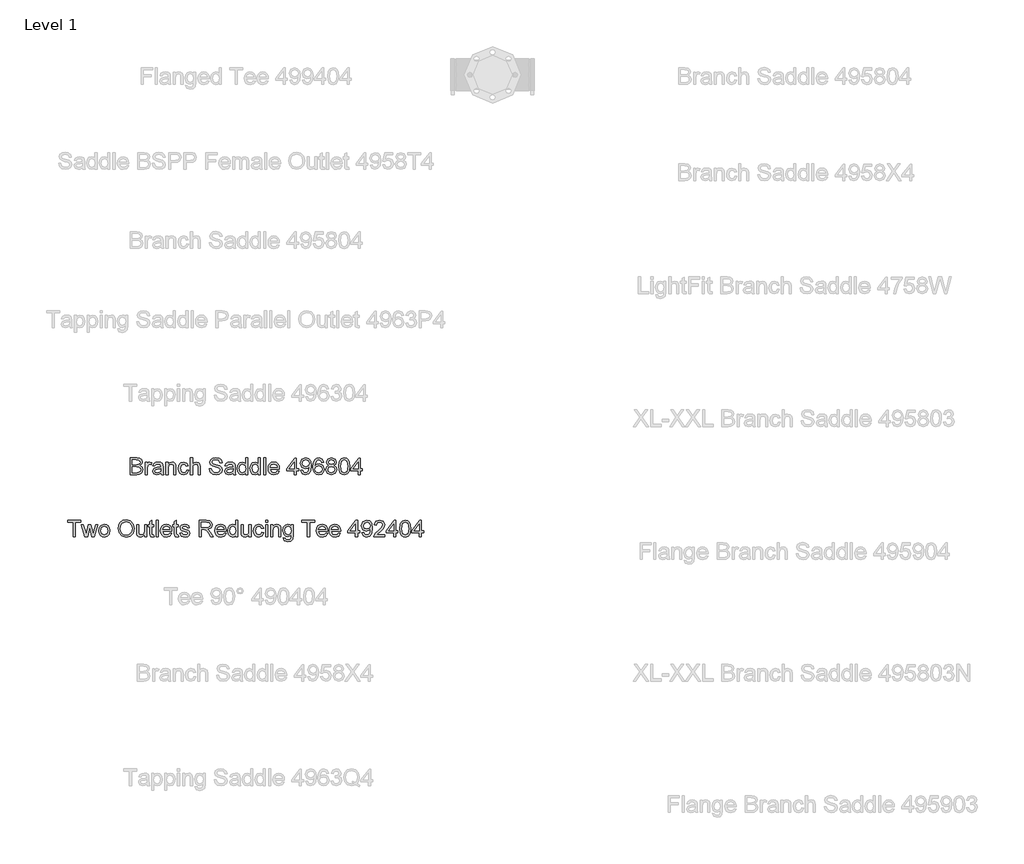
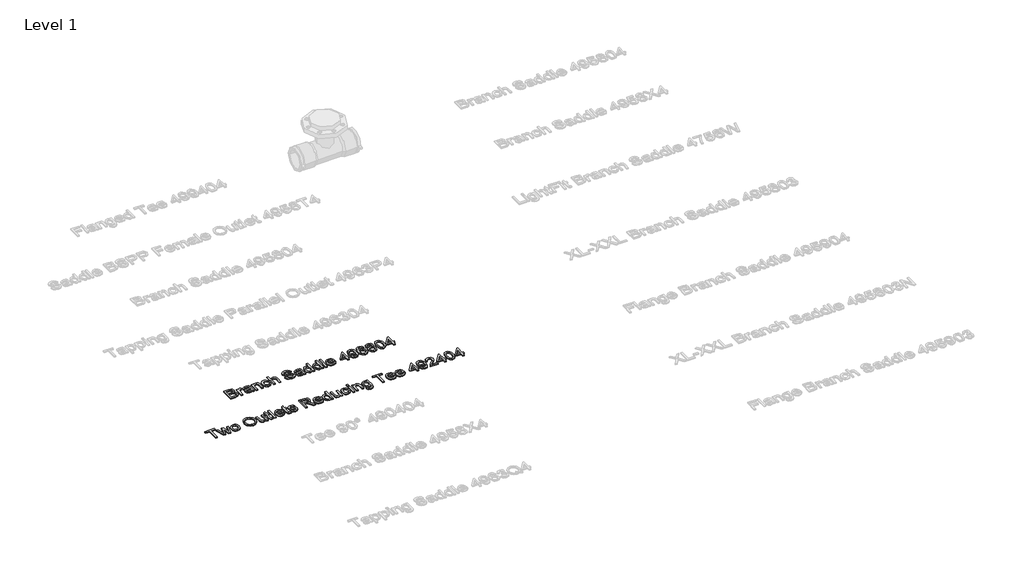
# One storey, part 5 of 38: 2 proxies.
"""IFC4 building model written with IfcOpenShell, lengths in millimetres."""

import ifcopenshell
import ifcopenshell.guid

model = None  # the IFC model being written
_history = None  # IfcOwnerHistory: only IFC2X3 demands one
_inside = {}  # id of a spatial element -> (the spatial element, [elements in it])
_under = {}  # id of a project, library or spatial element -> (it, [spatial elements below it])
_declared = {}  # id of a project -> (the project, [libraries it declares])
_typed = {}  # id of a type object -> (the type object, [elements of that type])
_made_of = {}  # id of a material, layer set ... -> (it, [elements and type objects made of it])


def new_model(schema):
    """Start an empty IFC model of exactly this schema.

    Asked for "IFC4X3", IfcOpenShell would pick the latest addendum, in which some entities
    have other attributes; the version numbers below select the first issue.
    IFC2X3 requires an IfcOwnerHistory on every rooted entity: one is made here for all.
    """
    global model, _history
    if schema == "IFC4X3":
        model = ifcopenshell.file(schema_version=(4, 3, 0, 0))
    else:
        model = ifcopenshell.file(schema=schema)
    _inside.clear()
    _under.clear()
    _declared.clear()
    _typed.clear()
    _made_of.clear()
    _history = None
    if model.schema == "IFC2X3":
        org = make("IfcOrganization", Name="unknown")
        user = make(
            "IfcPersonAndOrganization",
            ThePerson=make("IfcPerson", FamilyName="unknown"),
            TheOrganization=org,
        )
        app = make(
            "IfcApplication",
            ApplicationDeveloper=org,
            Version="unknown",
            ApplicationFullName="unknown",
            ApplicationIdentifier="unknown",
        )
        _history = make(
            "IfcOwnerHistory",
            OwningUser=user,
            OwningApplication=app,
            ChangeAction="ADDED",
            CreationDate=0,
        )
    return model


def make(cls, **values):
    """One entity of the class cls with the attributes given. An attribute that is None is left unset."""
    return model.create_entity(
        cls, **{name: value for name, value in values.items() if value is not None}
    )


def rooted(cls, **values):
    """An entity with a GlobalId (a new one), such as an element, a storey or a relation."""
    return make(cls, GlobalId=ifcopenshell.guid.new(), OwnerHistory=_history, **values)


def si_unit(unit_type, name, prefix=None):
    """IfcSIUnit, for example si_unit("LENGTHUNIT", "METRE", prefix="MILLI")."""
    return make("IfcSIUnit", UnitType=unit_type, Prefix=prefix, Name=name)


def assignment(units):
    """IfcUnitAssignment: the units of a project."""
    return None if units is None else make("IfcUnitAssignment", Units=units)


def point(xyz):
    """IfcCartesianPoint."""
    return None if xyz is None else make("IfcCartesianPoint", Coordinates=xyz)


def direction(xyz):
    """IfcDirection."""
    return None if xyz is None else make("IfcDirection", DirectionRatios=xyz)


def frame(location, z_axis=None, x_axis=None):
    """IfcAxis2Placement3D, a coordinate frame: its origin and axes. An axis left out is left unset."""
    return make(
        "IfcAxis2Placement3D",
        Location=point(location),
        Axis=direction(z_axis),
        RefDirection=direction(x_axis),
    )


def origin():
    """The frame at (0, 0, 0) with its axes left unset."""
    return frame((0.0, 0.0, 0.0))


def origin_with_axes():
    """The frame at (0, 0, 0) with the z axis (0, 0, 1) and the x axis (1, 0, 0) written out."""
    return frame((0.0, 0.0, 0.0), z_axis=(0.0, 0.0, 1.0), x_axis=(1.0, 0.0, 0.0))


def place(relative_to, where):
    """IfcLocalPlacement: puts the frame where relative to a parent placement (None: the world)."""
    return make(
        "IfcLocalPlacement", PlacementRelTo=relative_to, RelativePlacement=where
    )


def context(
    kind, dimensions, precision=None, world=None, true_north=None, identifier=None
):
    """IfcGeometricRepresentationContext, for example the 3D "Model" context."""
    return make(
        "IfcGeometricRepresentationContext",
        ContextIdentifier=identifier,
        ContextType=kind,
        CoordinateSpaceDimension=dimensions,
        Precision=precision,
        WorldCoordinateSystem=world,
        TrueNorth=true_north,
    )


def project(units=None, contexts=None):
    """IfcProject with its units and contexts."""
    return rooted(
        "IfcProject",
        Name="project",
        RepresentationContexts=contexts,
        UnitsInContext=assignment(units),
    )


def spatial(cls, under=None, at=None, **own):
    """A site, building, storey or space (cls), placed at a placement, below another one or the project."""
    s = rooted(cls, ObjectPlacement=at, **own)
    if under is not None:
        _under.setdefault(under.id(), (under, []))[1].append(s)
    return s


def polyline(points):
    """IfcPolyline through the points."""
    return make("IfcPolyline", Points=[point(p) for p in points])


def outline(outer, holes=None, kind="AREA"):
    """IfcArbitraryClosedProfileDef: a profile drawn as a closed curve; with holes, ...WithVoids."""
    if holes is None:
        return make("IfcArbitraryClosedProfileDef", ProfileType=kind, OuterCurve=outer)
    return make(
        "IfcArbitraryProfileDefWithVoids",
        ProfileType=kind,
        OuterCurve=outer,
        InnerCurves=holes,
    )


def extrude(swept, where, along, depth):
    """IfcExtrudedAreaSolid: the profile swept, set in the frame where, extruded along a direction by depth."""
    return make(
        "IfcExtrudedAreaSolid",
        SweptArea=swept,
        Position=where,
        ExtrudedDirection=direction(along),
        Depth=depth,
    )


def shape(context_of_items, identifier, shape_type, items):
    """IfcShapeRepresentation: the items that make up one representation, for example the "Body"."""
    return make(
        "IfcShapeRepresentation",
        ContextOfItems=context_of_items,
        RepresentationIdentifier=identifier,
        RepresentationType=shape_type,
        Items=items,
    )


def made_of(thing, what):
    """Note that an element or type object is made of a material, layer set ...; save() writes the relation."""
    if what is not None:
        _made_of.setdefault(what.id(), (what, []))[1].append(thing)
    return thing


def element(
    cls,
    number,
    at=None,
    inside=None,
    cuts=None,
    type_object=None,
    material=None,
    context=None,
    identifier="Body",
    shape_type=None,
    held_by="IfcProductDefinitionShape",
    body=None,
    shapes=None,
    **own,
):
    """One element of the class cls, such as IfcWall. Its Tag is "e" and its number.

    at: its placement. inside: the storey or other place that contains it. cuts: it is an
    opening in that element (IfcRelVoidsElement). A single representation is given by context,
    identifier, shape_type and body (its items); several are given by shapes. held_by: the class
    of the entity that holds the representations. save() writes the other relations.
    """
    e = rooted(cls, Tag="e%d" % number, ObjectPlacement=at, **own)
    if body is not None:
        shapes = [shape(context, identifier, shape_type, body)]
    if shapes is not None:
        e.Representation = make(held_by, Representations=shapes)
    if inside is not None:
        _inside.setdefault(inside.id(), (inside, []))[1].append(e)
    if cuts is not None:
        rooted(
            "IfcRelVoidsElement", RelatingBuildingElement=cuts, RelatedOpeningElement=e
        )
    if type_object is not None:
        _typed.setdefault(type_object.id(), (type_object, []))[1].append(e)
    return made_of(e, material)


def aggregate(whole, parts):
    """IfcRelAggregates: a whole, such as a stair, and the parts it consists of."""
    return rooted("IfcRelAggregates", RelatingObject=whole, RelatedObjects=parts)


def save(model, path):
    """Write the relations noted so far, then the file.

    IfcRelAggregates (storeys below a building ...), IfcRelContainedInSpatialStructure (elements
    in a storey), IfcRelDefinesByType, IfcRelAssociatesMaterial and IfcRelDeclares: one each for
    every whole, place, type object, material and project.
    """
    for whole, parts in _under.values():
        aggregate(whole, parts)
    for where, things in _inside.values():
        rooted(
            "IfcRelContainedInSpatialStructure",
            RelatedElements=things,
            RelatingStructure=where,
        )
    for kind, things in _typed.values():
        rooted("IfcRelDefinesByType", RelatedObjects=things, RelatingType=kind)
    for what, things in _made_of.values():
        rooted("IfcRelAssociatesMaterial", RelatedObjects=things, RelatingMaterial=what)
    for by, libraries in _declared.values():
        rooted("IfcRelDeclares", RelatingContext=by, RelatedDefinitions=libraries)
    model.write(path)


model = new_model("IFC4")

# Units and contexts
model_context = context("Model", 3, world=origin())
ifc_project = project(units=[si_unit("LENGTHUNIT", "METRE", prefix="MILLI")], contexts=[model_context])

# Site, building, storey
site = spatial("IfcSite", under=ifc_project)
building = spatial("IfcBuilding", under=site)
storey = spatial("IfcBuildingStorey", under=building, Name="Level 1", Elevation=0.0)

# Proxies
placement = place(None, origin())
element("IfcBuildingElementProxy", 1, Name="100 mm Arial", ObjectType="100 mm Arial", at=placement, inside=storey, context=model_context, shape_type="SweptSolid", body=[
    extrude(outline(polyline([(6650.4423841, 3557.5779735), (6650.4423841, 3616.6548966), (6672.9856533, 3616.6548966), (6684.0265187, 3614.9169158), (6690.5457495, 3609.5731658), (6692.9039226, 3602.0154735), (6690.9207495, 3595.1140312), (6684.927961, 3589.8856658), (6692.2044033, 3584.3760505), (6694.7500764, 3575.1885505), (6693.0120956, 3567.2486466), (6688.7068072, 3561.5948005), (6682.2813264, 3558.5948005), (6672.8125764, 3557.5779735), (6650.4423841, 3557.5779735)]), holes=[polyline([(6657.8269995, 3564.9625889), (6672.9712303, 3564.9625889), (6678.4519995, 3565.2510505), (6683.0890187, 3566.8592235), (6686.1611341, 3570.1404735), (6687.365461, 3575.1164351), (6685.9519995, 3580.8568197), (6681.3726726, 3584.2823005), (6672.2500764, 3585.2702812), (6657.8269995, 3585.2702812), (6657.8269995, 3564.9625889)]), polyline([(6657.8269995, 3592.6548966), (6671.3125764, 3592.6548966), (6679.1875764, 3593.289512), (6683.9255572, 3596.0226851), (6685.5193072, 3600.8327812), (6684.0337303, 3605.6500889), (6679.7789226, 3608.4986466), (6670.288538, 3609.2702812), (6657.8269995, 3609.2702812), (6657.8269995, 3592.6548966)])]), origin_with_axes(), (0.0, 0.0, 1.0), 5.0),
    extrude(outline(polyline([(6703.9808456, 3557.5779735), (6703.9808456, 3600.9625889), (6710.4423841, 3600.9625889), (6710.4423841, 3594.5443197), (6715.0289226, 3600.4577812), (6719.6443072, 3601.8856658), (6727.0577687, 3599.6068197), (6724.5914226, 3592.9866274), (6719.3991149, 3594.5010505), (6715.2236341, 3593.0443197), (6712.5625764, 3589.0058582), (6711.365461, 3580.3808582), (6711.365461, 3557.5779735), (6703.9808456, 3557.5779735)])), origin_with_axes(), (0.0, 0.0, 1.0), 5.0),
    extrude(outline(polyline([(6759.365461, 3563.1164351), (6752.2044033, 3558.1116274), (6744.2933456, 3556.6548966), (6733.569788, 3560.1597043), (6729.8269995, 3569.1164351), (6731.240461, 3574.9577812), (6734.9544033, 3579.1981658), (6740.1250764, 3581.6212428), (6746.5144995, 3582.7318197), (6759.3221918, 3585.2702812), (6759.365461, 3586.914512), (6757.3318072, 3592.3664351), (6749.1683456, 3594.5010505), (6741.6971918, 3593.0803774), (6738.1346918, 3588.039512), (6730.7500764, 3588.9625889), (6733.944788, 3596.1741274), (6740.3774803, 3600.4000889), (6750.1202687, 3601.8856658), (6759.069788, 3600.5731658), (6764.1250764, 3597.2774928), (6766.3894995, 3592.2654735), (6766.7500764, 3585.8039351), (6766.7500764, 3576.6164351), (6767.1250764, 3563.7871082), (6768.5962303, 3557.5779735), (6761.2116149, 3557.5779735), (6759.365461, 3563.1164351)]), holes=[polyline([(6759.365461, 3577.8856658), (6747.4519995, 3575.6212428), (6741.0986341, 3574.4241274), (6738.2212303, 3572.477012), (6737.2116149, 3569.6356658), (6739.4111341, 3565.6404735), (6745.865461, 3564.039512), (6753.3366149, 3565.8063389), (6758.1539226, 3570.0827812), (6759.3221918, 3575.7943197), (6759.365461, 3577.8856658)])]), origin_with_axes(), (0.0, 0.0, 1.0), 5.0),
    extrude(outline(polyline([(6776.9039226, 3557.5779735), (6776.9039226, 3600.9625889), (6784.288538, 3600.9625889), (6784.288538, 3594.9048966), (6789.9351726, 3600.1404735), (6797.6443072, 3601.8856658), (6804.6178649, 3600.4794158), (6809.3774803, 3596.7871082), (6811.5914226, 3591.3568197), (6811.9808456, 3584.2173966), (6811.9808456, 3557.5779735), (6804.5962303, 3557.5779735), (6804.5962303, 3583.2222043), (6803.7452687, 3589.7558582), (6800.7380572, 3593.2101851), (6795.6683456, 3594.5010505), (6787.6563264, 3591.602012), (6784.288538, 3580.5972043), (6784.288538, 3557.5779735), (6776.9039226, 3557.5779735)])), origin_with_axes(), (0.0, 0.0, 1.0), 5.0),
    extrude(outline(polyline([(6849.8269995, 3573.2702812), (6857.2116149, 3572.3472043), (6851.2837303, 3560.8159543), (6839.5721918, 3556.6548966), (6831.7170235, 3558.1062187), (6825.5745956, 3562.4601851), (6821.6100524, 3569.5256899), (6820.288538, 3579.1116274), (6822.5457495, 3591.3784543), (6829.4255572, 3599.2606658), (6839.4712303, 3601.8856658), (6850.6995956, 3598.2798966), (6856.288538, 3588.039512), (6848.9039226, 3587.1164351), (6845.4784418, 3592.6476851), (6839.5289226, 3594.5010505), (6830.9688264, 3590.852012), (6827.6731533, 3579.3135505), (6830.896711, 3567.6669158), (6839.3269995, 3564.039512), (6846.2861341, 3566.3039351), (6849.8269995, 3573.2702812)])), origin_with_axes(), (0.0, 0.0, 1.0), 5.0),
    extrude(outline(polyline([(6863.6731533, 3557.5779735), (6863.6731533, 3616.6548966), (6871.0577687, 3616.6548966), (6871.0577687, 3594.9337428), (6876.8161822, 3600.1476851), (6883.9087303, 3601.8856658), (6892.2019995, 3599.9890312), (6897.2356533, 3594.7462428), (6898.7500764, 3585.039512), (6898.7500764, 3557.5779735), (6891.365461, 3557.5779735), (6891.365461, 3584.2750889), (6889.0144995, 3592.0635505), (6882.351038, 3594.5010505), (6876.3005572, 3592.8568197), (6872.2620956, 3588.4000889), (6871.0577687, 3580.6260505), (6871.0577687, 3557.5779735), (6863.6731533, 3557.5779735)])), origin_with_axes(), (0.0, 0.0, 1.0), 5.0),
    extrude(outline(polyline([(6930.1346918, 3577.8856658), (6937.5193072, 3577.8856658), (6939.8991149, 3570.4938389), (6945.7116149, 3565.820762), (6954.5673841, 3564.039512), (6962.2837303, 3565.3880697), (6967.2669033, 3569.0948005), (6968.9039226, 3574.0491274), (6967.677961, 3578.6573005), (6962.6587303, 3582.0106658), (6951.9063264, 3584.8303774), (6940.3318072, 3588.4722043), (6934.0505572, 3593.9673966), (6931.9808456, 3601.3087428), (6934.5409418, 3609.6669158), (6942.0193072, 3615.5659543), (6952.9664226, 3617.5779735), (6964.6491149, 3615.4722043), (6972.4375764, 3609.2847043), (6975.365461, 3600.039512), (6967.9808456, 3600.039512), (6963.7981533, 3607.6260505), (6953.2548841, 3610.1933582), (6942.6827687, 3607.6548966), (6939.365461, 3601.5250889), (6941.7164226, 3596.4048966), (6953.7741149, 3592.2798966), (6966.8414226, 3588.5731658), (6973.9880572, 3582.5875889), (6976.288538, 3574.2366274), (6973.6419033, 3565.4024928), (6966.0265187, 3558.9553774), (6954.8558456, 3556.6548966), (6941.6659418, 3559.1356658), (6933.3221918, 3566.6068197), (6930.1346918, 3577.8856658)])), origin_with_axes(), (0.0, 0.0, 1.0), 5.0),
    extrude(outline(polyline([(7014.1346918, 3563.1164351), (7006.9736341, 3558.1116274), (6999.0625764, 3556.6548966), (6988.3390187, 3560.1597043), (6984.5962303, 3569.1164351), (6986.0096918, 3574.9577812), (6989.7236341, 3579.1981658), (6994.8943072, 3581.6212428), (7001.2837303, 3582.7318197), (7014.0914226, 3585.2702812), (7014.1346918, 3586.914512), (7012.101038, 3592.3664351), (7003.9375764, 3594.5010505), (6996.4664226, 3593.0803774), (6992.9039226, 3588.039512), (6985.5193072, 3588.9625889), (6988.7140187, 3596.1741274), (6995.146711, 3600.4000889), (7004.8894995, 3601.8856658), (7013.8390187, 3600.5731658), (7018.8943072, 3597.2774928), (7021.1587303, 3592.2654735), (7021.5193072, 3585.8039351), (7021.5193072, 3576.6164351), (7021.8943072, 3563.7871082), (7023.365461, 3557.5779735), (7015.9808456, 3557.5779735), (7014.1346918, 3563.1164351)]), holes=[polyline([(7014.1346918, 3577.8856658), (7002.2212303, 3575.6212428), (6995.8678649, 3574.4241274), (6992.990461, 3572.477012), (6991.9808456, 3569.6356658), (6994.1803649, 3565.6404735), (7000.6346918, 3564.039512), (7008.1058456, 3565.8063389), (7012.9231533, 3570.0827812), (7014.0914226, 3575.7943197), (7014.1346918, 3577.8856658)])]), origin_with_axes(), (0.0, 0.0, 1.0), 5.0),
    extrude(outline(polyline([(7058.4423841, 3557.5779735), (7058.4423841, 3564.5443197), (7053.5565668, 3558.6272524), (7046.802961, 3556.6548966), (7037.6587303, 3559.5106658), (7031.1971918, 3567.4794158), (7028.9039226, 3579.227012), (7031.0169033, 3590.9818197), (7037.3486341, 3599.0731658), (7046.7741149, 3601.8856658), (7053.5818072, 3599.8736466), (7058.4423841, 3594.6452812), (7058.4423841, 3616.6548966), (7065.8269995, 3616.6548966), (7065.8269995, 3557.5779735), (7058.4423841, 3557.5779735)]), holes=[polyline([(7036.288538, 3579.2558582), (7039.6202687, 3567.8255697), (7047.4808456, 3564.039512), (7055.2476726, 3567.6524928), (7058.4423841, 3578.6933582), (7055.1899803, 3590.6789351), (7047.177961, 3594.5010505), (7039.4039226, 3590.8303774), (7036.288538, 3579.2558582)])]), origin_with_axes(), (0.0, 0.0, 1.0), 5.0),
    extrude(outline(polyline([(7103.6731533, 3557.5779735), (7103.6731533, 3564.5443197), (7098.787336, 3558.6272524), (7092.0337303, 3556.6548966), (7082.8894995, 3559.5106658), (7076.427961, 3567.4794158), (7074.1346918, 3579.227012), (7076.2476726, 3590.9818197), (7082.5794033, 3599.0731658), (7092.0048841, 3601.8856658), (7098.8125764, 3599.8736466), (7103.6731533, 3594.6452812), (7103.6731533, 3616.6548966), (7111.0577687, 3616.6548966), (7111.0577687, 3557.5779735), (7103.6731533, 3557.5779735)]), holes=[polyline([(7081.5193072, 3579.2558582), (7084.851038, 3567.8255697), (7092.7116149, 3564.039512), (7100.4784418, 3567.6524928), (7103.6731533, 3578.6933582), (7100.4207495, 3590.6789351), (7092.4087303, 3594.5010505), (7084.6346918, 3590.8303774), (7081.5193072, 3579.2558582)])]), origin_with_axes(), (0.0, 0.0, 1.0), 5.0),
    extrude(outline(polyline([(7122.1346918, 3557.5779735), (7122.1346918, 3616.6548966), (7129.5193072, 3616.6548966), (7129.5193072, 3557.5779735), (7122.1346918, 3557.5779735)])), origin_with_axes(), (0.0, 0.0, 1.0), 5.0),
    extrude(outline(polyline([(7170.9712303, 3570.5010505), (7178.2116149, 3569.5779735), (7171.4399803, 3560.0443197), (7158.8269995, 3556.6548966), (7150.162336, 3558.117036), (7143.4952687, 3562.5034543), (7139.2440668, 3569.5292957), (7137.8269995, 3578.9097043), (7139.2584899, 3588.6056178), (7143.552961, 3595.8568197), (7150.1298841, 3600.3784543), (7158.4087303, 3601.8856658), (7166.4297639, 3600.3820601), (7172.8390187, 3595.8712428), (7177.0415428, 3588.6344639), (7178.4423841, 3578.9529735), (7178.3991149, 3576.9625889), (7145.2116149, 3576.9625889), (7149.459211, 3567.3712428), (7158.9712303, 3564.039512), (7166.2116149, 3565.5827812), (7170.9712303, 3570.5010505)]), holes=[polyline([(7145.2116149, 3584.3472043), (7171.0577687, 3584.3472043), (7168.101038, 3591.039512), (7158.3798841, 3594.5010505), (7149.2861341, 3591.7390312), (7145.2116149, 3584.3472043)])]), origin_with_axes(), (0.0, 0.0, 1.0), 5.0),
    extrude(outline(polyline([(7231.0577687, 3557.5779735), (7231.0577687, 3571.4241274), (7204.288538, 3571.4241274), (7204.288538, 3578.8087428), (7232.9039226, 3615.7318197), (7238.4423841, 3615.7318197), (7238.4423841, 3578.8087428), (7245.8269995, 3578.8087428), (7245.8269995, 3571.4241274), (7238.4423841, 3571.4241274), (7238.4423841, 3557.5779735), (7231.0577687, 3557.5779735)]), holes=[polyline([(7231.0577687, 3578.8087428), (7231.0577687, 3601.6260505), (7213.3750764, 3578.8087428), (7231.0577687, 3578.8087428)])]), origin_with_axes(), (0.0, 0.0, 1.0), 5.0),
    extrude(outline(polyline([(7253.2116149, 3572.3472043), (7260.5962303, 3573.2702812), (7263.913538, 3566.2246082), (7270.2019995, 3564.039512), (7276.1803649, 3565.445762), (7280.2332495, 3569.2029735), (7282.6491149, 3575.6212428), (7283.7164226, 3584.1885505), (7277.7669033, 3580.0347043), (7269.6683456, 3577.8856658), (7257.3294033, 3583.1356658), (7252.288538, 3596.9673966), (7257.5745956, 3611.2462428), (7270.8221918, 3616.6548966), (7281.3438264, 3613.5683582), (7288.584211, 3604.7702812), (7291.0577687, 3588.2414351), (7288.5914226, 3570.3063389), (7281.257288, 3560.1452812), (7269.8558456, 3556.6548966), (7258.5048841, 3560.7726851), (7253.2116149, 3572.3472043)]), holes=[polyline([(7283.6731533, 3597.1404735), (7280.4856533, 3605.9962428), (7272.0193072, 3609.2702812), (7263.1346918, 3605.7438389), (7259.6731533, 3596.6068197), (7262.9471918, 3588.4217235), (7271.8173841, 3585.2702812), (7280.334211, 3588.4217235), (7283.6731533, 3597.1404735)])]), origin_with_axes(), (0.0, 0.0, 1.0), 5.0),
    extrude(outline(polyline([(7335.365461, 3600.9625889), (7327.9808456, 3600.039512), (7325.1827687, 3606.1981658), (7317.7837303, 3609.2702812), (7311.1202687, 3607.4818197), (7306.0794033, 3600.7678774), (7303.9808456, 3587.6068197), (7310.4928649, 3593.4986466), (7318.5625764, 3595.4241274), (7331.1106533, 3590.1597043), (7336.288538, 3576.5587428), (7333.851038, 3566.3688389), (7327.1443072, 3559.1573005), (7317.4664226, 3556.6548966), (7309.0884178, 3558.3135505), (7302.4159418, 3563.289512), (7298.0511581, 3572.0731658), (7296.5962303, 3585.1548966), (7298.2116149, 3599.8628293), (7303.0577687, 3609.9193197), (7309.6743553, 3614.9710024), (7318.2452687, 3616.6548966), (7329.913538, 3612.4866274), (7335.365461, 3600.9625889)]), holes=[polyline([(7303.9808456, 3576.6741274), (7305.6899803, 3570.2774928), (7310.2332495, 3565.633262), (7316.8894995, 3564.039512), (7325.5938264, 3567.3423966), (7328.9039226, 3576.3135505), (7325.6370956, 3584.9024928), (7316.5866149, 3588.039512), (7307.6515187, 3584.9024928), (7303.9808456, 3576.6741274)])]), origin_with_axes(), (0.0, 0.0, 1.0), 5.0),
    extrude(outline(polyline([(7353.5096918, 3590.1164351), (7346.7813264, 3594.7029735), (7344.5962303, 3601.8423966), (7349.3558456, 3612.3856658), (7362.0337303, 3616.6548966), (7374.8269995, 3612.2847043), (7379.6731533, 3601.6404735), (7377.5169033, 3594.6813389), (7370.976038, 3590.1164351), (7378.8294033, 3584.3255697), (7381.5193072, 3574.7702812), (7376.1827687, 3561.8760505), (7362.1346918, 3556.6548966), (7348.0866149, 3561.8976851), (7342.7500764, 3574.9722043), (7345.5481533, 3584.7510505), (7353.5096918, 3590.1164351)]), holes=[polyline([(7351.9808456, 3601.6260505), (7354.5986341, 3595.8279735), (7362.2212303, 3593.5779735), (7369.6923841, 3595.8135505), (7372.288538, 3601.2943197), (7369.6058456, 3606.9698005), (7362.1346918, 3609.2702812), (7354.6419033, 3607.0202812), (7351.9808456, 3601.6260505)]), polyline([(7350.1346918, 3575.2318197), (7351.3678649, 3569.6717235), (7355.7308456, 3565.5106658), (7362.1923841, 3564.039512), (7370.990461, 3567.133262), (7374.1346918, 3575.0010505), (7370.8894995, 3583.0202812), (7361.9471918, 3586.1933582), (7353.257288, 3583.0635505), (7350.1346918, 3575.2318197)])]), origin_with_axes(), (0.0, 0.0, 1.0), 5.0),
    extrude(outline(polyline([(7387.9808456, 3586.6404735), (7390.1515187, 3603.6380697), (7396.5986341, 3613.4385505), (7407.365461, 3616.6548966), (7415.990461, 3614.7510505), (7421.9471918, 3609.2630697), (7425.4087303, 3600.5226851), (7426.7500764, 3586.6404735), (7424.601038, 3569.7149928), (7418.1755572, 3559.8928774), (7407.365461, 3556.6548966), (7399.6923841, 3558.0611466), (7393.865461, 3562.2798966), (7389.4519995, 3572.2714832), (7387.9808456, 3586.6404735)]), holes=[polyline([(7395.365461, 3586.6548966), (7398.8269995, 3568.3159543), (7407.365461, 3564.039512), (7415.9039226, 3568.3303774), (7419.365461, 3586.6548966), (7416.0193072, 3604.7847043), (7407.2789226, 3609.2702812), (7398.9423841, 3605.3183582), (7395.365461, 3586.6548966)])]), origin_with_axes(), (0.0, 0.0, 1.0), 5.0),
    extrude(outline(polyline([(7457.2116149, 3557.5779735), (7457.2116149, 3571.4241274), (7430.4423841, 3571.4241274), (7430.4423841, 3578.8087428), (7459.0577687, 3615.7318197), (7464.5962303, 3615.7318197), (7464.5962303, 3578.8087428), (7471.9808456, 3578.8087428), (7471.9808456, 3571.4241274), (7464.5962303, 3571.4241274), (7464.5962303, 3557.5779735), (7457.2116149, 3557.5779735)]), holes=[polyline([(7457.2116149, 3578.8087428), (7457.2116149, 3601.6260505), (7439.5289226, 3578.8087428), (7457.2116149, 3578.8087428)])]), origin_with_axes(), (0.0, 0.0, 1.0), 5.0),
])
element("IfcBuildingElementProxy", 2, Name="100 mm Arial", ObjectType="100 mm Arial", at=placement, inside=storey, context=model_context, shape_type="SweptSolid", body=[
    extrude(outline(polyline([(6449.2116149, 3337.5779735), (6449.2116149, 3389.2702812), (6429.8269995, 3389.2702812), (6429.8269995, 3396.6548966), (6475.9808456, 3396.6548966), (6475.9808456, 3389.2702812), (6456.5962303, 3389.2702812), (6456.5962303, 3337.5779735), (6449.2116149, 3337.5779735)])), origin_with_axes(), (0.0, 0.0, 1.0), 5.0),
    extrude(outline(polyline([(6490.5625764, 3337.5779735), (6477.365461, 3380.9625889), (6485.038538, 3380.9625889), (6492.5241149, 3355.6500889), (6494.7596918, 3346.6068197), (6496.5914226, 3355.3183582), (6502.5481533, 3380.9625889), (6511.3462303, 3380.9625889), (6517.2741149, 3355.3904735), (6518.9039226, 3347.5010505), (6521.240461, 3355.8231658), (6528.740461, 3380.9625889), (6536.4423841, 3380.9625889), (6523.1443072, 3337.5779735), (6514.2164226, 3337.5779735), (6508.5481533, 3363.0202812), (6506.9039226, 3370.9529735), (6499.5914226, 3337.5779735), (6490.5625764, 3337.5779735)])), origin_with_axes(), (0.0, 0.0, 1.0), 5.0),
    extrude(outline(polyline([(6539.6731533, 3359.2702812), (6541.2705091, 3369.7306178), (6546.0625764, 3377.0827812), (6559.0721918, 3381.8856658), (6566.8300043, 3380.4235264), (6573.0265187, 3376.0371082), (6577.0884178, 3369.0725649), (6578.4423841, 3359.8760505), (6576.0481533, 3346.7366274), (6569.0745956, 3339.3015312), (6559.0721918, 3336.6548966), (6551.2206293, 3338.1116274), (6545.0313264, 3342.4818197), (6541.0126966, 3349.5923966), (6539.6731533, 3359.2702812)]), holes=[polyline([(6547.0577687, 3359.2847043), (6550.476038, 3347.8399928), (6559.0721918, 3344.039512), (6567.6394995, 3347.8616274), (6571.0577687, 3359.5154735), (6567.6178649, 3370.7005697), (6559.0721918, 3374.5010505), (6550.476038, 3370.7149928), (6547.0577687, 3359.2847043)])]), origin_with_axes(), (0.0, 0.0, 1.0), 5.0),
    extrude(outline(polyline([(6607.9808456, 3366.3375889), (6609.9495956, 3379.4012908), (6615.8558456, 3389.2847043), (6624.8738745, 3395.5046562), (6636.177961, 3397.5779735), (6650.8750764, 3393.6837428), (6660.8558456, 3382.8231658), (6664.288538, 3367.0154735), (6660.6755572, 3350.9914351), (6650.4351726, 3340.289512), (6636.1346918, 3336.6548966), (6621.2789226, 3340.6717235), (6611.3558456, 3351.633262), (6607.9808456, 3366.3375889)]), holes=[polyline([(6615.365461, 3366.2654735), (6616.8420235, 3357.023887), (6621.271711, 3349.9818197), (6627.9297639, 3345.5250889), (6636.0914226, 3344.039512), (6644.3720716, 3345.539512), (6651.0409418, 3350.039512), (6655.4381774, 3357.2979255), (6656.9039226, 3367.0731658), (6654.3943072, 3379.2606658), (6647.0601726, 3387.3303774), (6636.2212303, 3390.1933582), (6621.5241149, 3384.6765312), (6616.9051245, 3377.3153533), (6615.365461, 3366.2654735)])]), origin_with_axes(), (0.0, 0.0, 1.0), 5.0),
    extrude(outline(polyline([(6701.2116149, 3337.5779735), (6701.2116149, 3345.0347043), (6695.427961, 3338.7498485), (6687.8846918, 3336.6548966), (6680.9399803, 3338.1260505), (6676.1515187, 3341.8183582), (6673.9519995, 3347.2558582), (6673.5193072, 3354.1212428), (6673.5193072, 3380.9625889), (6680.9039226, 3380.9625889), (6680.9039226, 3357.5972043), (6681.351038, 3350.0683582), (6684.271711, 3345.6476851), (6689.7741149, 3344.039512), (6695.9399803, 3345.6837428), (6700.0144995, 3350.1621082), (6701.2116149, 3358.3904735), (6701.2116149, 3380.9625889), (6708.5962303, 3380.9625889), (6708.5962303, 3337.5779735), (6701.2116149, 3337.5779735)])), origin_with_axes(), (0.0, 0.0, 1.0), 5.0),
    extrude(outline(polyline([(6734.4423841, 3343.7366274), (6735.365461, 3337.3616274), (6729.8414226, 3336.6548966), (6723.6539226, 3337.8808582), (6720.5673841, 3341.0972043), (6719.6731533, 3349.477012), (6719.6731533, 3373.5779735), (6714.1346918, 3373.5779735), (6714.1346918, 3380.9625889), (6719.6731533, 3380.9625889), (6719.6731533, 3391.5058582), (6727.0577687, 3395.8472043), (6727.0577687, 3380.9625889), (6734.4423841, 3380.9625889), (6734.4423841, 3373.5779735), (6727.0577687, 3373.5779735), (6727.0577687, 3349.6933582), (6727.4471918, 3345.8856658), (6728.709211, 3344.5371082), (6731.226038, 3344.039512), (6734.4423841, 3343.7366274)])), origin_with_axes(), (0.0, 0.0, 1.0), 5.0),
    extrude(outline(polyline([(6741.8269995, 3337.5779735), (6741.8269995, 3396.6548966), (6749.2116149, 3396.6548966), (6749.2116149, 3337.5779735), (6741.8269995, 3337.5779735)])), origin_with_axes(), (0.0, 0.0, 1.0), 5.0),
    extrude(outline(polyline([(6790.663538, 3350.5010505), (6797.9039226, 3349.5779735), (6791.132288, 3340.0443197), (6778.5193072, 3336.6548966), (6769.8546437, 3338.117036), (6763.1875764, 3342.5034543), (6758.9363745, 3349.5292957), (6757.5193072, 3358.9097043), (6758.9507976, 3368.6056178), (6763.2452687, 3375.8568197), (6769.8221918, 3380.3784543), (6778.101038, 3381.8856658), (6786.1220716, 3380.3820601), (6792.5313264, 3375.8712428), (6796.7338505, 3368.6344639), (6798.1346918, 3358.9529735), (6798.0914226, 3356.9625889), (6764.9039226, 3356.9625889), (6769.1515187, 3347.3712428), (6778.663538, 3344.039512), (6785.9039226, 3345.5827812), (6790.663538, 3350.5010505)]), holes=[polyline([(6764.9039226, 3364.3472043), (6790.7500764, 3364.3472043), (6787.7933456, 3371.039512), (6778.0721918, 3374.5010505), (6768.9784418, 3371.7390312), (6764.9039226, 3364.3472043)])]), origin_with_axes(), (0.0, 0.0, 1.0), 5.0),
    extrude(outline(polyline([(6821.2116149, 3343.7366274), (6822.1346918, 3337.3616274), (6816.6106533, 3336.6548966), (6810.4231533, 3337.8808582), (6807.3366149, 3341.0972043), (6806.4423841, 3349.477012), (6806.4423841, 3373.5779735), (6800.9039226, 3373.5779735), (6800.9039226, 3380.9625889), (6806.4423841, 3380.9625889), (6806.4423841, 3391.5058582), (6813.8269995, 3395.8472043), (6813.8269995, 3380.9625889), (6821.2116149, 3380.9625889), (6821.2116149, 3373.5779735), (6813.8269995, 3373.5779735), (6813.8269995, 3349.6933582), (6814.2164226, 3345.8856658), (6815.4784418, 3344.5371082), (6817.9952687, 3344.039512), (6821.2116149, 3343.7366274)])), origin_with_axes(), (0.0, 0.0, 1.0), 5.0),
    extrude(outline(polyline([(6825.8269995, 3350.5010505), (6833.2116149, 3351.4241274), (6836.6298841, 3345.9433582), (6844.4616149, 3344.039512), (6851.990461, 3345.7847043), (6854.4423841, 3349.8808582), (6851.976038, 3353.1981658), (6844.3750764, 3355.3039351), (6833.2548841, 3358.9169158), (6828.4015187, 3363.1356658), (6826.7500764, 3369.0923966), (6828.0769995, 3374.5948005), (6831.6971918, 3378.7991274), (6836.3919033, 3380.9842235), (6842.7452687, 3381.8856658), (6851.7308456, 3380.4361466), (6857.4423841, 3376.5130697), (6859.9808456, 3369.8856658), (6852.5962303, 3368.9625889), (6849.819788, 3373.0371082), (6843.3221918, 3374.5010505), (6836.2548841, 3373.102012), (6834.1346918, 3369.8423966), (6835.0144995, 3367.6933582), (6837.7693072, 3366.0635505), (6844.1298841, 3364.4914351), (6854.9688264, 3361.0154735), (6860.0024803, 3357.0779735), (6861.8269995, 3350.6597043), (6859.6851726, 3343.5923966), (6853.5048841, 3338.4649928), (6844.3606533, 3336.6548966), (6831.4808456, 3340.1452812), (6825.8269995, 3350.5010505)])), origin_with_axes(), (0.0, 0.0, 1.0), 5.0),
    extrude(outline(polyline([(6894.1346918, 3337.5779735), (6894.1346918, 3396.6548966), (6919.5914226, 3396.6548966), (6931.4111341, 3395.0611466), (6937.8726726, 3389.4217235), (6940.288538, 3380.4866274), (6936.2861341, 3369.8423966), (6923.9183456, 3364.3472043), (6928.115461, 3361.1885505), (6934.101038, 3353.5875889), (6943.9519995, 3337.5779735), (6935.3702687, 3337.5779735), (6927.6827687, 3349.8231658), (6922.1298841, 3357.9289351), (6918.2284418, 3361.758262), (6914.7164226, 3363.164512), (6910.4327687, 3363.4241274), (6901.5193072, 3363.4241274), (6901.5193072, 3337.5779735), (6894.1346918, 3337.5779735)]), holes=[polyline([(6901.5193072, 3370.8087428), (6918.0481533, 3370.8087428), (6926.4784418, 3371.8544158), (6931.2669033, 3375.2005697), (6932.9039226, 3380.2125889), (6929.7813264, 3386.7173966), (6919.9087303, 3389.2702812), (6901.5193072, 3389.2702812), (6901.5193072, 3370.8087428)])]), origin_with_axes(), (0.0, 0.0, 1.0), 5.0),
    extrude(outline(polyline([(6982.663538, 3350.5010505), (6989.9039226, 3349.5779735), (6983.132288, 3340.0443197), (6970.5193072, 3336.6548966), (6961.8546437, 3338.117036), (6955.1875764, 3342.5034543), (6950.9363745, 3349.5292957), (6949.5193072, 3358.9097043), (6950.9507976, 3368.6056178), (6955.2452687, 3375.8568197), (6961.8221918, 3380.3784543), (6970.101038, 3381.8856658), (6978.1220716, 3380.3820601), (6984.5313264, 3375.8712428), (6988.7338505, 3368.6344639), (6990.1346918, 3358.9529735), (6990.0914226, 3356.9625889), (6956.9039226, 3356.9625889), (6961.1515187, 3347.3712428), (6970.663538, 3344.039512), (6977.9039226, 3345.5827812), (6982.663538, 3350.5010505)]), holes=[polyline([(6956.9039226, 3364.3472043), (6982.7500764, 3364.3472043), (6979.7933456, 3371.039512), (6970.0721918, 3374.5010505), (6960.9784418, 3371.7390312), (6956.9039226, 3364.3472043)])]), origin_with_axes(), (0.0, 0.0, 1.0), 5.0),
    extrude(outline(polyline([(7024.288538, 3337.5779735), (7024.288538, 3344.5443197), (7019.4027206, 3338.6272524), (7012.6491149, 3336.6548966), (7003.5048841, 3339.5106658), (6997.0433456, 3347.4794158), (6994.7500764, 3359.227012), (6996.8630572, 3370.9818197), (7003.194788, 3379.0731658), (7012.6202687, 3381.8856658), (7019.427961, 3379.8736466), (7024.288538, 3374.6452812), (7024.288538, 3396.6548966), (7031.6731533, 3396.6548966), (7031.6731533, 3337.5779735), (7024.288538, 3337.5779735)]), holes=[polyline([(7002.1346918, 3359.2558582), (7005.4664226, 3347.8255697), (7013.3269995, 3344.039512), (7021.0938264, 3347.6524928), (7024.288538, 3358.6933582), (7021.0361341, 3370.6789351), (7013.0241149, 3374.5010505), (7005.2500764, 3370.8303774), (7002.1346918, 3359.2558582)])]), origin_with_axes(), (0.0, 0.0, 1.0), 5.0),
    extrude(outline(polyline([(7070.4423841, 3337.5779735), (7070.4423841, 3345.0347043), (7064.6587303, 3338.7498485), (7057.115461, 3336.6548966), (7050.1707495, 3338.1260505), (7045.382288, 3341.8183582), (7043.1827687, 3347.2558582), (7042.7500764, 3354.1212428), (7042.7500764, 3380.9625889), (7050.1346918, 3380.9625889), (7050.1346918, 3357.5972043), (7050.5818072, 3350.0683582), (7053.5024803, 3345.6476851), (7059.0048841, 3344.039512), (7065.1707495, 3345.6837428), (7069.2452687, 3350.1621082), (7070.4423841, 3358.3904735), (7070.4423841, 3380.9625889), (7077.8269995, 3380.9625889), (7077.8269995, 3337.5779735), (7070.4423841, 3337.5779735)])), origin_with_axes(), (0.0, 0.0, 1.0), 5.0),
    extrude(outline(polyline([(7115.6731533, 3353.2702812), (7123.0577687, 3352.3472043), (7117.1298841, 3340.8159543), (7105.4183456, 3336.6548966), (7097.5631774, 3338.1062187), (7091.4207495, 3342.4601851), (7087.4562062, 3349.5256899), (7086.1346918, 3359.1116274), (7088.3919033, 3371.3784543), (7095.271711, 3379.2606658), (7105.3173841, 3381.8856658), (7116.5457495, 3378.2798966), (7122.1346918, 3368.039512), (7114.7500764, 3367.1164351), (7111.3245956, 3372.6476851), (7105.3750764, 3374.5010505), (7096.8149803, 3370.852012), (7093.5193072, 3359.3135505), (7096.7428649, 3347.6669158), (7105.1731533, 3344.039512), (7112.132288, 3346.3039351), (7115.6731533, 3353.2702812)])), origin_with_axes(), (0.0, 0.0, 1.0), 5.0),
    extrude(outline(polyline([(7129.5193072, 3337.5779735), (7129.5193072, 3380.9625889), (7136.9039226, 3380.9625889), (7136.9039226, 3337.5779735), (7129.5193072, 3337.5779735)])), origin_with_axes(), (0.0, 0.0, 1.0), 5.0),
    extrude(outline(polyline([(7129.5193072, 3389.2702812), (7129.5193072, 3396.6548966), (7136.9039226, 3396.6548966), (7136.9039226, 3389.2702812), (7129.5193072, 3389.2702812)])), origin_with_axes(), (0.0, 0.0, 1.0), 5.0),
    extrude(outline(polyline([(7147.9808456, 3337.5779735), (7147.9808456, 3380.9625889), (7155.365461, 3380.9625889), (7155.365461, 3374.9048966), (7161.0120956, 3380.1404735), (7168.7212303, 3381.8856658), (7175.694788, 3380.4794158), (7180.4544033, 3376.7871082), (7182.6683456, 3371.3568197), (7183.0577687, 3364.2173966), (7183.0577687, 3337.5779735), (7175.6731533, 3337.5779735), (7175.6731533, 3363.2222043), (7174.8221918, 3369.7558582), (7171.8149803, 3373.2101851), (7166.7452687, 3374.5010505), (7158.7332495, 3371.602012), (7155.365461, 3360.5972043), (7155.365461, 3337.5779735), (7147.9808456, 3337.5779735)])), origin_with_axes(), (0.0, 0.0, 1.0), 5.0),
    extrude(outline(polyline([(7191.365461, 3333.8856658), (7198.7500764, 3332.9625889), (7201.1443072, 3329.0683582), (7208.3125764, 3327.4241274), (7215.8702687, 3329.2847043), (7219.476038, 3334.5058582), (7219.9808456, 3343.1164351), (7208.4423841, 3337.5779735), (7200.8288024, 3339.1897524), (7195.1515187, 3344.0250889), (7190.4423841, 3359.4866274), (7192.5553649, 3370.9313389), (7198.6707495, 3379.0298966), (7208.0818072, 3381.8856658), (7214.6695476, 3380.2702812), (7219.9808456, 3375.4241274), (7219.9808456, 3380.9625889), (7227.365461, 3380.9625889), (7227.365461, 3343.5058582), (7225.3462303, 3329.1621082), (7218.9495956, 3322.4914351), (7208.1683456, 3320.039512), (7195.8870956, 3323.4938389), (7191.365461, 3333.8856658)]), holes=[polyline([(7197.8269995, 3359.9914351), (7200.9784418, 3348.5611466), (7208.8894995, 3344.9625889), (7216.7861341, 3348.539512), (7219.9808456, 3359.7750889), (7216.6923841, 3370.7871082), (7208.7741149, 3374.5010505), (7201.021711, 3370.8448005), (7197.8269995, 3359.9914351)])]), origin_with_axes(), (0.0, 0.0, 1.0), 5.0),
    extrude(outline(polyline([(7277.2116149, 3337.5779735), (7277.2116149, 3389.2702812), (7257.8269995, 3389.2702812), (7257.8269995, 3396.6548966), (7303.9808456, 3396.6548966), (7303.9808456, 3389.2702812), (7284.5962303, 3389.2702812), (7284.5962303, 3337.5779735), (7277.2116149, 3337.5779735)])), origin_with_axes(), (0.0, 0.0, 1.0), 5.0),
    extrude(outline(polyline([(7341.740461, 3350.5010505), (7348.9808456, 3349.5779735), (7342.209211, 3340.0443197), (7329.5962303, 3336.6548966), (7320.9315668, 3338.117036), (7314.2644995, 3342.5034543), (7310.0132976, 3349.5292957), (7308.5962303, 3358.9097043), (7310.0277206, 3368.6056178), (7314.3221918, 3375.8568197), (7320.8991149, 3380.3784543), (7329.177961, 3381.8856658), (7337.1989947, 3380.3820601), (7343.6082495, 3375.8712428), (7347.8107735, 3368.6344639), (7349.2116149, 3358.9529735), (7349.1683456, 3356.9625889), (7315.9808456, 3356.9625889), (7320.2284418, 3347.3712428), (7329.740461, 3344.039512), (7336.9808456, 3345.5827812), (7341.740461, 3350.5010505)]), holes=[polyline([(7315.9808456, 3364.3472043), (7341.8269995, 3364.3472043), (7338.8702687, 3371.039512), (7329.1491149, 3374.5010505), (7320.0553649, 3371.7390312), (7315.9808456, 3364.3472043)])]), origin_with_axes(), (0.0, 0.0, 1.0), 5.0),
    extrude(outline(polyline([(7386.9712303, 3350.5010505), (7394.2116149, 3349.5779735), (7387.4399803, 3340.0443197), (7374.8269995, 3336.6548966), (7366.162336, 3338.117036), (7359.4952687, 3342.5034543), (7355.2440668, 3349.5292957), (7353.8269995, 3358.9097043), (7355.2584899, 3368.6056178), (7359.552961, 3375.8568197), (7366.1298841, 3380.3784543), (7374.4087303, 3381.8856658), (7382.4297639, 3380.3820601), (7388.8390187, 3375.8712428), (7393.0415428, 3368.6344639), (7394.4423841, 3358.9529735), (7394.3991149, 3356.9625889), (7361.2116149, 3356.9625889), (7365.459211, 3347.3712428), (7374.9712303, 3344.039512), (7382.2116149, 3345.5827812), (7386.9712303, 3350.5010505)]), holes=[polyline([(7361.2116149, 3364.3472043), (7387.0577687, 3364.3472043), (7384.101038, 3371.039512), (7374.3798841, 3374.5010505), (7365.2861341, 3371.7390312), (7361.2116149, 3364.3472043)])]), origin_with_axes(), (0.0, 0.0, 1.0), 5.0),
    extrude(outline(polyline([(7447.0577687, 3337.5779735), (7447.0577687, 3351.4241274), (7420.288538, 3351.4241274), (7420.288538, 3358.8087428), (7448.9039226, 3395.7318197), (7454.4423841, 3395.7318197), (7454.4423841, 3358.8087428), (7461.8269995, 3358.8087428), (7461.8269995, 3351.4241274), (7454.4423841, 3351.4241274), (7454.4423841, 3337.5779735), (7447.0577687, 3337.5779735)]), holes=[polyline([(7447.0577687, 3358.8087428), (7447.0577687, 3381.6260505), (7429.3750764, 3358.8087428), (7447.0577687, 3358.8087428)])]), origin_with_axes(), (0.0, 0.0, 1.0), 5.0),
    extrude(outline(polyline([(7469.2116149, 3352.3472043), (7476.5962303, 3353.2702812), (7479.913538, 3346.2246082), (7486.2019995, 3344.039512), (7492.1803649, 3345.445762), (7496.2332495, 3349.2029735), (7498.6491149, 3355.6212428), (7499.7164226, 3364.1885505), (7493.7669033, 3360.0347043), (7485.6683456, 3357.8856658), (7473.3294033, 3363.1356658), (7468.288538, 3376.9673966), (7473.5745956, 3391.2462428), (7486.8221918, 3396.6548966), (7497.3438264, 3393.5683582), (7504.584211, 3384.7702812), (7507.0577687, 3368.2414351), (7504.5914226, 3350.3063389), (7497.257288, 3340.1452812), (7485.8558456, 3336.6548966), (7474.5048841, 3340.7726851), (7469.2116149, 3352.3472043)]), holes=[polyline([(7499.6731533, 3377.1404735), (7496.4856533, 3385.9962428), (7488.0193072, 3389.2702812), (7479.1346918, 3385.7438389), (7475.6731533, 3376.6068197), (7478.9471918, 3368.4217235), (7487.8173841, 3365.2702812), (7496.334211, 3368.4217235), (7499.6731533, 3377.1404735)])]), origin_with_axes(), (0.0, 0.0, 1.0), 5.0),
    extrude(outline(polyline([(7551.365461, 3344.9625889), (7551.365461, 3337.5779735), (7512.5962303, 3337.5779735), (7513.3894995, 3342.6693197), (7517.8750764, 3350.508262), (7527.1202687, 3359.0683582), (7539.8702687, 3371.3712428), (7543.0577687, 3379.7366274), (7540.0505572, 3386.508262), (7532.1971918, 3389.2702812), (7524.0120956, 3386.5731658), (7520.9039226, 3379.1164351), (7513.5193072, 3380.039512), (7519.1803649, 3392.4000889), (7532.3558456, 3396.6548966), (7545.5745956, 3391.9241274), (7550.4423841, 3380.1837428), (7549.1298841, 3373.1813389), (7544.7669033, 3365.9409543), (7534.1875764, 3355.8231658), (7525.6923841, 3348.7198005), (7522.3606533, 3344.9625889), (7551.365461, 3344.9625889)])), origin_with_axes(), (0.0, 0.0, 1.0), 5.0),
    extrude(outline(polyline([(7582.7500764, 3337.5779735), (7582.7500764, 3351.4241274), (7555.9808456, 3351.4241274), (7555.9808456, 3358.8087428), (7584.5962303, 3395.7318197), (7590.1346918, 3395.7318197), (7590.1346918, 3358.8087428), (7597.5193072, 3358.8087428), (7597.5193072, 3351.4241274), (7590.1346918, 3351.4241274), (7590.1346918, 3337.5779735), (7582.7500764, 3337.5779735)]), holes=[polyline([(7582.7500764, 3358.8087428), (7582.7500764, 3381.6260505), (7565.0673841, 3358.8087428), (7582.7500764, 3358.8087428)])]), origin_with_axes(), (0.0, 0.0, 1.0), 5.0),
    extrude(outline(polyline([(7603.9808456, 3366.6404735), (7606.1515187, 3383.6380697), (7612.5986341, 3393.4385505), (7623.365461, 3396.6548966), (7631.990461, 3394.7510505), (7637.9471918, 3389.2630697), (7641.4087303, 3380.5226851), (7642.7500764, 3366.6404735), (7640.601038, 3349.7149928), (7634.1755572, 3339.8928774), (7623.365461, 3336.6548966), (7615.6923841, 3338.0611466), (7609.865461, 3342.2798966), (7605.4519995, 3352.2714832), (7603.9808456, 3366.6404735)]), holes=[polyline([(7611.365461, 3366.6548966), (7614.8269995, 3348.3159543), (7623.365461, 3344.039512), (7631.9039226, 3348.3303774), (7635.365461, 3366.6548966), (7632.0193072, 3384.7847043), (7623.2789226, 3389.2702812), (7614.9423841, 3385.3183582), (7611.365461, 3366.6548966)])]), origin_with_axes(), (0.0, 0.0, 1.0), 5.0),
    extrude(outline(polyline([(7673.2116149, 3337.5779735), (7673.2116149, 3351.4241274), (7646.4423841, 3351.4241274), (7646.4423841, 3358.8087428), (7675.0577687, 3395.7318197), (7680.5962303, 3395.7318197), (7680.5962303, 3358.8087428), (7687.9808456, 3358.8087428), (7687.9808456, 3351.4241274), (7680.5962303, 3351.4241274), (7680.5962303, 3337.5779735), (7673.2116149, 3337.5779735)]), holes=[polyline([(7673.2116149, 3358.8087428), (7673.2116149, 3381.6260505), (7655.5289226, 3358.8087428), (7673.2116149, 3358.8087428)])]), origin_with_axes(), (0.0, 0.0, 1.0), 5.0),
])

save(model, "model.ifc")
